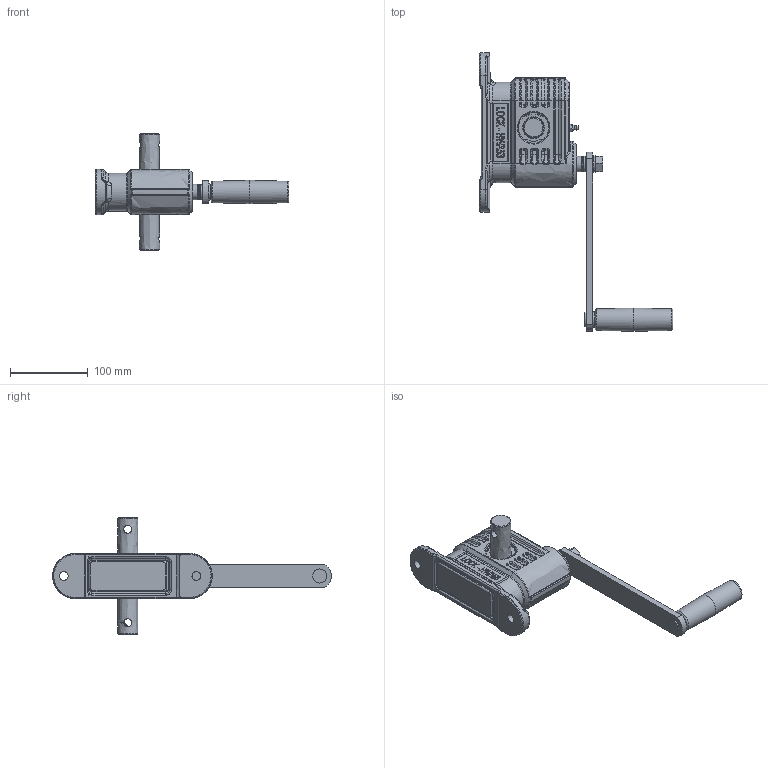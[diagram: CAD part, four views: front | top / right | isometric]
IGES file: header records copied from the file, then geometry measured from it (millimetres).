
Global section: file name: 52105_1601_06; native system: Autodesk Inventor 2022; preprocessor: unknown; author: Nesvadba; date: 20240222.164346; units: millimetre
Bounding box: 249 x 357.99 x 150 mm (x, y, z)
Volume: 534257.7 mm3; surface area: 184644.5 mm2
Topology: 20 solids, 21 shells, 2399 faces, 6279 edges, 4047 vertices
Faces by surface type: bspline 2399
